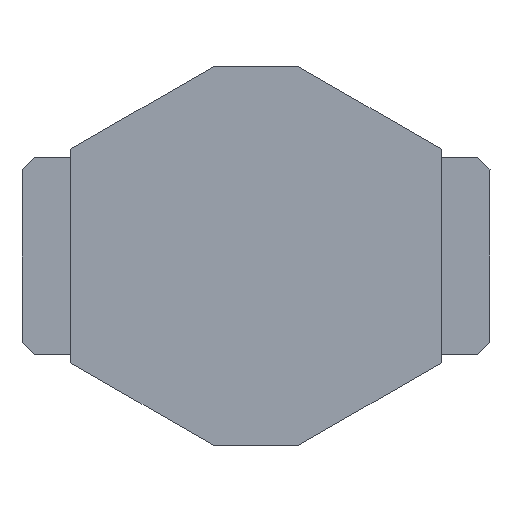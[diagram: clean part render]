
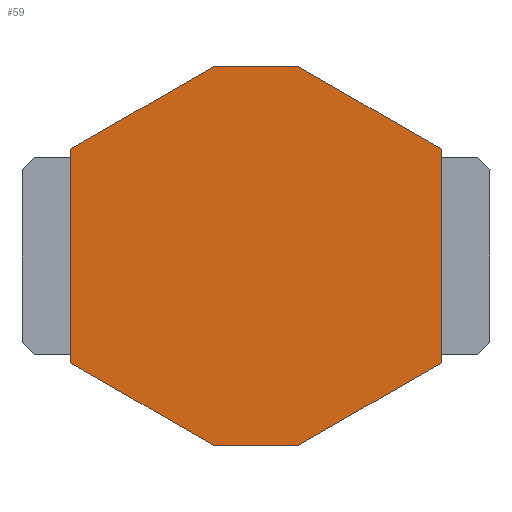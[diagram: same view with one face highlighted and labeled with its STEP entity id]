
A CAD part, front view. The second image highlights one B-rep face of the part: STEP entity #59.
In plain terms, the highlighted planar face has unit normal (0, -1, 0).
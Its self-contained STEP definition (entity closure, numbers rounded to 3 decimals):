
#1 = EDGE_LOOP ( 'NONE', ( #235, #565, #232, #1480, #1454, #967, #583, #140 ) ) ;
#59 = ADVANCED_FACE ( 'NONE', ( #639 ), #640, .T. ) ;
#67 = VERTEX_POINT ( 'NONE', #692 ) ;
#90 = EDGE_CURVE ( 'NONE', #67, #347, #784, .T. ) ;
#98 = VERTEX_POINT ( 'NONE', #802 ) ;
#140 = ORIENTED_EDGE ( 'NONE', *, *, #1164, .F. ) ;
#149 = EDGE_CURVE ( 'NONE', #98, #227, #1076, .T. ) ;
#183 = EDGE_CURVE ( 'NONE', #67, #271, #1158, .T. ) ;
#188 = VERTEX_POINT ( 'NONE', #1185 ) ;
#226 = EDGE_CURVE ( 'NONE', #241, #271, #1263, .T. ) ;
#227 = VERTEX_POINT ( 'NONE', #1267 ) ;
#232 = ORIENTED_EDGE ( 'NONE', *, *, #737, .F. ) ;
#235 = ORIENTED_EDGE ( 'NONE', *, *, #283, .F. ) ;
#241 = VERTEX_POINT ( 'NONE', #1312 ) ;
#247 = VERTEX_POINT ( 'NONE', #1323 ) ;
#271 = VERTEX_POINT ( 'NONE', #1042 ) ;
#283 = EDGE_CURVE ( 'NONE', #98, #188, #357, .T. ) ;
#347 = VERTEX_POINT ( 'NONE', #686 ) ;
#357 = LINE ( 'NONE', #358, #359 ) ;
#358 = CARTESIAN_POINT ( 'NONE',  ( 1080., -33.25, 1633.397 ) ) ;
#359 = VECTOR ( 'NONE', #361, 1000. ) ;
#361 = DIRECTION ( 'NONE',  ( -0.866, 0., 0.5 ) ) ;
#565 = ORIENTED_EDGE ( 'NONE', *, *, #149, .T. ) ;
#583 = ORIENTED_EDGE ( 'NONE', *, *, #226, .F. ) ;
#639 = FACE_OUTER_BOUND ( 'NONE', #1, .T. ) ;
#640 = PLANE ( 'NONE',  #641 ) ;
#641 = AXIS2_PLACEMENT_3D ( 'NONE', #642, #643, #644 ) ;
#642 = CARTESIAN_POINT ( 'NONE',  ( 1005., -33.25, 1763.301 ) ) ;
#643 = DIRECTION ( 'NONE',  ( 0., -1., 0. ) ) ;
#644 = DIRECTION ( 'NONE',  ( -1., 0., 0. ) ) ;
#686 = CARTESIAN_POINT ( 'NONE',  ( 1155., -33.25, 1763.301 ) ) ;
#692 = CARTESIAN_POINT ( 'NONE',  ( 1097.321, -33.25, 1796.603 ) ) ;
#737 = EDGE_CURVE ( 'NONE', #247, #227, #924, .T. ) ;
#784 = LINE ( 'NONE', #785, #786 ) ;
#785 = CARTESIAN_POINT ( 'NONE',  ( 1080., -33.25, 1806.603 ) ) ;
#786 = VECTOR ( 'NONE', #787, 1000. ) ;
#787 = DIRECTION ( 'NONE',  ( 0.866, 0., -0.5 ) ) ;
#802 = CARTESIAN_POINT ( 'NONE',  ( 1062.679, -33.25, 1643.397 ) ) ;
#837 = LINE ( 'NONE', #838, #839 ) ;
#838 = CARTESIAN_POINT ( 'NONE',  ( 1155., -33.25, 1763.301 ) ) ;
#839 = VECTOR ( 'NONE', #840, 1000. ) ;
#840 = DIRECTION ( 'NONE',  ( 0., 0., -1. ) ) ;
#924 = LINE ( 'NONE', #925, #926 ) ;
#925 = CARTESIAN_POINT ( 'NONE',  ( 1155., -33.25, 1676.699 ) ) ;
#926 = VECTOR ( 'NONE', #927, 1000. ) ;
#927 = DIRECTION ( 'NONE',  ( -0.866, 0., -0.5 ) ) ;
#967 = ORIENTED_EDGE ( 'NONE', *, *, #183, .T. ) ;
#1042 = CARTESIAN_POINT ( 'NONE',  ( 1062.68, -33.25, 1796.603 ) ) ;
#1076 = LINE ( 'NONE', #1077, #1078 ) ;
#1077 = CARTESIAN_POINT ( 'NONE',  ( 1005., -33.25, 1643.397 ) ) ;
#1078 = VECTOR ( 'NONE', #1079, 1000. ) ;
#1079 = DIRECTION ( 'NONE',  ( 1., 0., 0. ) ) ;
#1158 = LINE ( 'NONE', #1159, #1160 ) ;
#1159 = CARTESIAN_POINT ( 'NONE',  ( 1005., -33.25, 1796.603 ) ) ;
#1160 = VECTOR ( 'NONE', #1161, 1000. ) ;
#1161 = DIRECTION ( 'NONE',  ( -1., 0., 0. ) ) ;
#1164 = EDGE_CURVE ( 'NONE', #188, #241, #1178, .T. ) ;
#1178 = LINE ( 'NONE', #1179, #1180 ) ;
#1179 = CARTESIAN_POINT ( 'NONE',  ( 1005., -33.25, 1676.699 ) ) ;
#1180 = VECTOR ( 'NONE', #1181, 1000. ) ;
#1181 = DIRECTION ( 'NONE',  ( 0., 0., 1. ) ) ;
#1185 = CARTESIAN_POINT ( 'NONE',  ( 1005., -33.25, 1676.699 ) ) ;
#1263 = LINE ( 'NONE', #1264, #1265 ) ;
#1264 = CARTESIAN_POINT ( 'NONE',  ( 1005., -33.25, 1763.301 ) ) ;
#1265 = VECTOR ( 'NONE', #1266, 1000. ) ;
#1266 = DIRECTION ( 'NONE',  ( 0.866, 0., 0.5 ) ) ;
#1267 = CARTESIAN_POINT ( 'NONE',  ( 1097.32, -33.25, 1643.397 ) ) ;
#1312 = CARTESIAN_POINT ( 'NONE',  ( 1005., -33.25, 1763.301 ) ) ;
#1323 = CARTESIAN_POINT ( 'NONE',  ( 1155., -33.25, 1676.699 ) ) ;
#1415 = EDGE_CURVE ( 'NONE', #347, #247, #837, .T. ) ;
#1454 = ORIENTED_EDGE ( 'NONE', *, *, #90, .F. ) ;
#1480 = ORIENTED_EDGE ( 'NONE', *, *, #1415, .F. ) ;
